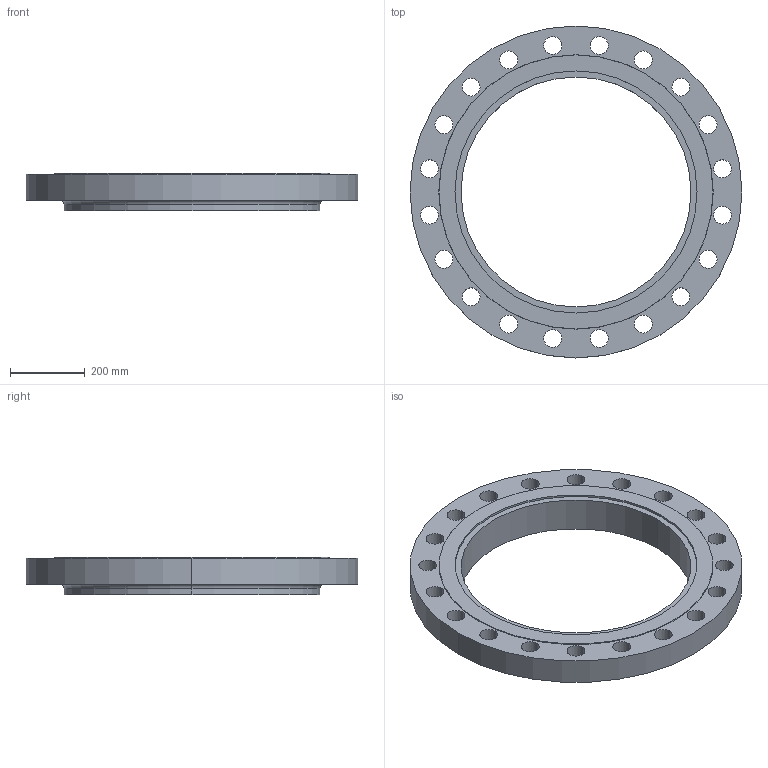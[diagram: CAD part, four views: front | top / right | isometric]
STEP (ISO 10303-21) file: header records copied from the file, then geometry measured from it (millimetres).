
FILE_DESCRIPTION (( 'STEP AP214' ), '1' );
FILE_NAME ('PN40 DN600 Type 12 - Type G Face.STEP', '2018-12-28T23:02:08', ( '' ), ( '' ), 'SwSTEP 2.0', 'SolidWorks 2019', '' );
FILE_SCHEMA (( 'AUTOMOTIVE_DESIGN' ));
Length unit declared in the file: millimetre
Products named in the file (1): PN40 DN600 Type 12 - Type G Face
Bounding box: 890 x 890 x 100 mm (x, y, z)
Volume: 22251587.8 mm3; surface area: 1229091.2 mm2
Topology: 1 solids, 1 shells, 57 faces, 154 edges, 102 vertices
Faces by surface type: cylinder 48, plane 5, torus 2, cone 2
Entity records: 1974 total; most frequent: DIRECTION 374, CARTESIAN_POINT 314, ORIENTED_EDGE 308, AXIS2_PLACEMENT_3D 162, EDGE_CURVE 154, CIRCLE 104, EDGE_LOOP 102, VERTEX_POINT 102
